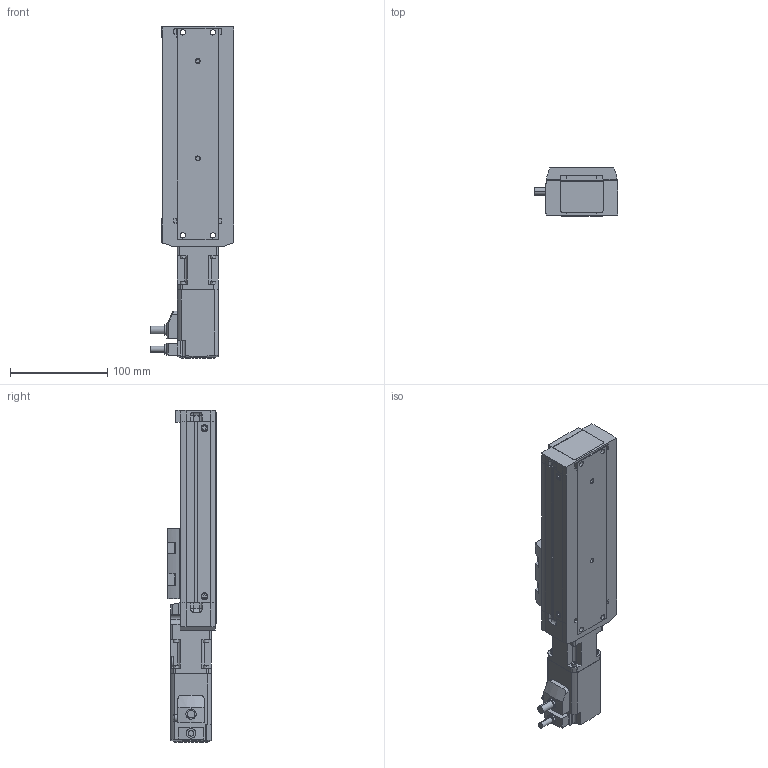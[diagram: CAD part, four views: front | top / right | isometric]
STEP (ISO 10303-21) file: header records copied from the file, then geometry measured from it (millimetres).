
FILE_DESCRIPTION (( 'STEP AP203' ), '1' );
FILE_NAME ('EZSM4D010AZAK.step', '2015-06-30T14:30:58', ( 'om' ), ( 'Hewlett-Packard Company' ), 'SwSTEP 2.0', 'SolidWorks 2014', '' );
FILE_SCHEMA (( 'CONFIG_CONTROL_DESIGN' ));
Length unit declared in the file: millimetre
Products named in the file (4): EZSM4D010AZAK_Motor; EZSM4D010AZAK_BASE; EZSM4D010AZAK_Table; EZSM4D010AZAK
Assembly tree (3 placements, depth 2):
  EZSM4D010AZAK
    EZSM4D010AZAK_Motor
    EZSM4D010AZAK_BASE
    EZSM4D010AZAK_Table
Bounding box: 86 x 50 x 341 mm (x, y, z)
Volume: 860700.6 mm3; surface area: 112485.3 mm2
Topology: 3 solids, 5 shells, 929 faces, 2352 edges, 1514 vertices
Faces by surface type: plane 582, cylinder 259, cone 50, torus 33, sphere 4, bspline 1
Entity records: 28522 total; most frequent: CARTESIAN_POINT 5268, DIRECTION 4801, ORIENTED_EDGE 4688, EDGE_CURVE 2344, LINE 1671, VECTOR 1671, AXIS2_PLACEMENT_3D 1565, VERTEX_POINT 1514
